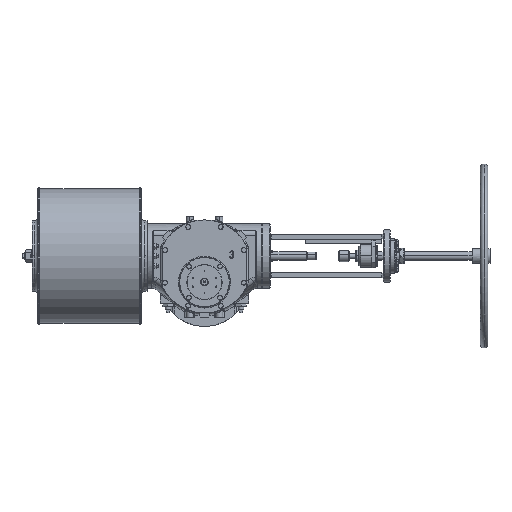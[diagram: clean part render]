
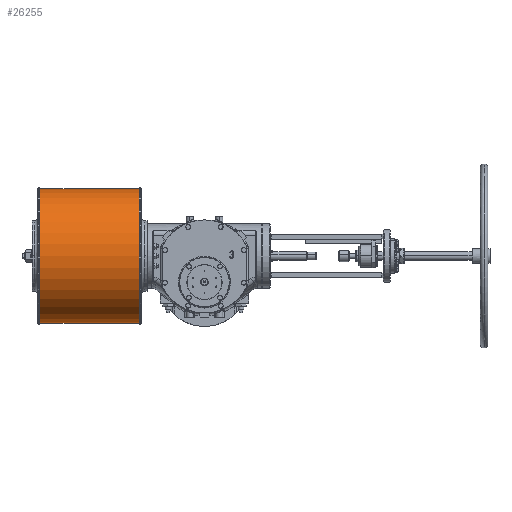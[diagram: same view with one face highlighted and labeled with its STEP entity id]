
A CAD part, top view. The second image highlights one B-rep face of the part: STEP entity #26255.
In plain terms, the highlighted cylindrical face has radius 228.6 mm (diameter 457.2 mm), a partial arc.
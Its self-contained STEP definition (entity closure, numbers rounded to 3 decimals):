
#4896 = AXIS2_PLACEMENT_3D ( 'NONE', #51486, #35878, #49561 ) ;
#5141 = DIRECTION ( 'NONE',  ( -1., 0., 0. ) ) ;
#5568 = VERTEX_POINT ( 'NONE', #86406 ) ;
#7251 = CARTESIAN_POINT ( 'NONE',  ( -559., -193.1, 74.5 ) ) ;
#11773 = LINE ( 'NONE', #58176, #93449 ) ;
#13411 = CYLINDRICAL_SURFACE ( 'NONE', #4896, 228.6 ) ;
#14329 = ORIENTED_EDGE ( 'NONE', *, *, #48849, .T. ) ;
#18409 = VERTEX_POINT ( 'NONE', #46666 ) ;
#19282 = CARTESIAN_POINT ( 'NONE',  ( -222., 35.5, 74.5 ) ) ;
#19670 = DIRECTION ( 'NONE',  ( 1., 0., 0. ) ) ;
#19826 = CARTESIAN_POINT ( 'NONE',  ( -222., 264.1, 74.5 ) ) ;
#21283 = VECTOR ( 'NONE', #21762, 1000. ) ;
#21693 = FACE_OUTER_BOUND ( 'NONE', #34637, .T. ) ;
#21762 = DIRECTION ( 'NONE',  ( 1., 0., 0. ) ) ;
#26255 = ADVANCED_FACE ( 'NONE', ( #21693 ), #13411, .T. ) ;
#27635 = LINE ( 'NONE', #49621, #21283 ) ;
#32846 = EDGE_CURVE ( 'NONE', #18409, #64787, #63101, .T. ) ;
#34637 = EDGE_LOOP ( 'NONE', ( #36105, #14329, #39651, #76770 ) ) ;
#34908 = DIRECTION ( 'NONE',  ( 0., 1., 0. ) ) ;
#35878 = DIRECTION ( 'NONE',  ( 1., 0., 0. ) ) ;
#36105 = ORIENTED_EDGE ( 'NONE', *, *, #81143, .T. ) ;
#37079 = CIRCLE ( 'NONE', #63585, 228.6 ) ;
#39585 = EDGE_CURVE ( 'NONE', #5568, #64787, #11773, .T. ) ;
#39651 = ORIENTED_EDGE ( 'NONE', *, *, #32846, .T. ) ;
#45949 = AXIS2_PLACEMENT_3D ( 'NONE', #19282, #5141, #34908 ) ;
#46666 = CARTESIAN_POINT ( 'NONE',  ( -222., -193.1, 74.5 ) ) ;
#48849 = EDGE_CURVE ( 'NONE', #87933, #18409, #27635, .T. ) ;
#49561 = DIRECTION ( 'NONE',  ( 0., 1., 0. ) ) ;
#49621 = CARTESIAN_POINT ( 'NONE',  ( -559., -193.1, 74.5 ) ) ;
#51486 = CARTESIAN_POINT ( 'NONE',  ( -559., 35.5, 74.5 ) ) ;
#58176 = CARTESIAN_POINT ( 'NONE',  ( -559., 264.1, 74.5 ) ) ;
#63101 = CIRCLE ( 'NONE', #45949, 228.6 ) ;
#63585 = AXIS2_PLACEMENT_3D ( 'NONE', #95309, #19670, #73845 ) ;
#64787 = VERTEX_POINT ( 'NONE', #19826 ) ;
#73845 = DIRECTION ( 'NONE',  ( 0., 1., 0. ) ) ;
#76770 = ORIENTED_EDGE ( 'NONE', *, *, #39585, .F. ) ;
#81143 = EDGE_CURVE ( 'NONE', #5568, #87933, #37079, .T. ) ;
#86406 = CARTESIAN_POINT ( 'NONE',  ( -559., 264.1, 74.5 ) ) ;
#87428 = DIRECTION ( 'NONE',  ( 1., 0., 0. ) ) ;
#87933 = VERTEX_POINT ( 'NONE', #7251 ) ;
#93449 = VECTOR ( 'NONE', #87428, 1000. ) ;
#95309 = CARTESIAN_POINT ( 'NONE',  ( -559., 35.5, 74.5 ) ) ;
